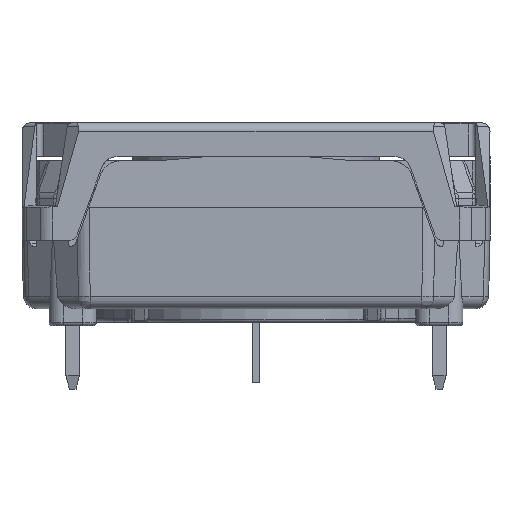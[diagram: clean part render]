
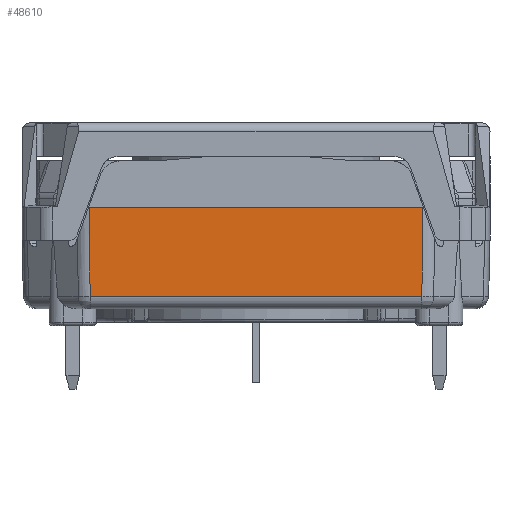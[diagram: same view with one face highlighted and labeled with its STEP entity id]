
A CAD part, front view. The second image highlights one B-rep face of the part: STEP entity #48610.
In plain terms, the highlighted planar face has unit normal (0, -1, -0.018) as drawn and (0, -1, 0.017) by its records, which use the part's own axes.
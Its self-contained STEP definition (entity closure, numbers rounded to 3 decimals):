
#47610=CARTESIAN_POINT('',(-4.45,-18.892,
0.413));
#47620=VERTEX_POINT('',#47610);
#47890=CARTESIAN_POINT('',(-4.45,-18.892,
0.413));
#47900=DIRECTION('',(-0.007,-0.017,
-1.));
#47910=VECTOR('',#47900,1.);
#47920=LINE('',#47890,#47910);
#47930=CARTESIAN_POINT('',(-4.488,-18.984,
-4.85));
#47940=VERTEX_POINT('',#47930);
#47950=EDGE_CURVE('',#47620,#47940,#47920,.T.);
#48310=CARTESIAN_POINT('',(-7.018,-18.984,
-4.85));
#48320=DIRECTION('',(0.,-1.,
0.017));
#48330=DIRECTION('',(-1.,0.,0.));
#48340=AXIS2_PLACEMENT_3D('',#48310,#48320,#48330);
#48350=PLANE('',#48340);
#48360=CARTESIAN_POINT('',(15.228,-18.984,-4.85
));
#48370=DIRECTION('',(-0.007,0.017,
1.));
#48380=VECTOR('',#48370,1.);
#48390=LINE('',#48360,#48380);
#48400=CARTESIAN_POINT('',(15.228,-18.984,-4.85)
);
#48410=VERTEX_POINT('',#48400);
#48420=CARTESIAN_POINT('',(15.19,-18.892,
0.413));
#48430=VERTEX_POINT('',#48420);
#48440=EDGE_CURVE('',#48410,#48430,#48390,.T.);
#48450=ORIENTED_EDGE('',*,*,#48440,.T.);
#48460=CARTESIAN_POINT('',(-4.488,-18.984,
-4.85));
#48470=DIRECTION('',(1.,0.,0.));
#48480=VECTOR('',#48470,1.);
#48490=LINE('',#48460,#48480);
#48500=EDGE_CURVE('',#47940,#48410,#48490,.T.);
#48510=ORIENTED_EDGE('',*,*,#48500,.T.);
#48520=ORIENTED_EDGE('',*,*,#47950,.T.);
#48530=CARTESIAN_POINT('',(-4.45,-18.892,
0.413));
#48540=DIRECTION('',(1.,0.,0.));
#48550=VECTOR('',#48540,1.);
#48560=LINE('',#48530,#48550);
#48570=EDGE_CURVE('',#47620,#48430,#48560,.T.);
#48580=ORIENTED_EDGE('',*,*,#48570,.F.);
#48590=EDGE_LOOP('',(#48580,#48520,#48510,#48450));
#48600=FACE_OUTER_BOUND('',#48590,.T.);
#48610=ADVANCED_FACE('',(#48600),#48350,.T.);
